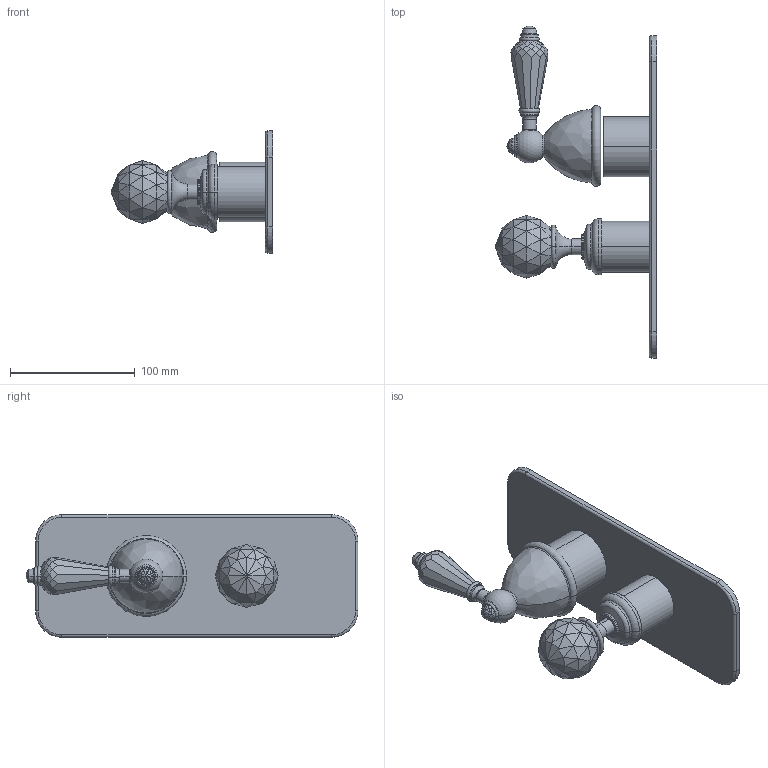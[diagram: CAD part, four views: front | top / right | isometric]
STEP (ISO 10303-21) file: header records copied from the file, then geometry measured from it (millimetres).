
FILE_DESCRIPTION((''),'2;1');
FILE_NAME('F5089X6C_FILE_3D','2018-07-05T',('ivanv'),(''),'CREO PARAMETRIC BY PTC INC, 2016260','CREO PARAMETRIC BY PTC INC, 2016260','');
FILE_SCHEMA(('CONFIG_CONTROL_DESIGN'));
Length unit declared in the file: millimetre
Products named in the file (1): F5089X6C_FILE_3D
Bounding box: 129.43 x 265.67 x 98 mm (x, y, z)
Volume: 176270.1 mm3; surface area: 125981.3 mm2
Topology: 7 solids, 8 shells, 777 faces, 1726 edges, 989 vertices
Faces by surface type: plane 390, cylinder 159, cone 116, torus 98, bspline 10, sphere 4
Entity records: 25526 total; most frequent: CARTESIAN_POINT 8599, DIRECTION 3590, ORIENTED_EDGE 3436, EDGE_CURVE 1718, AXIS2_PLACEMENT_3D 1366, VERTEX_POINT 989, VECTOR 858, LINE 858
